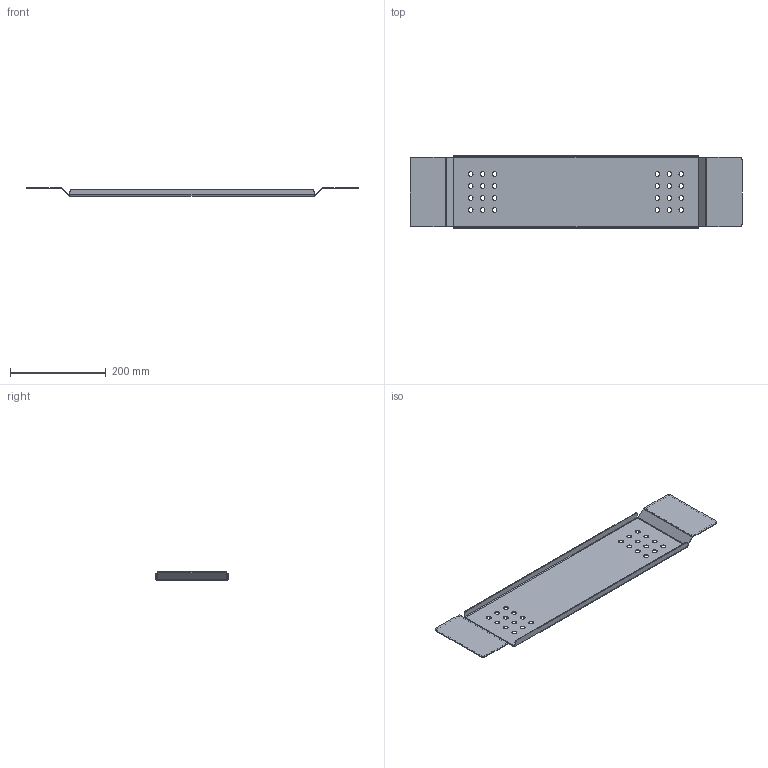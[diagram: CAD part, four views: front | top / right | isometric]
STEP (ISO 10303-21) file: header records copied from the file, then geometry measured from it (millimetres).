
FILE_DESCRIPTION (( 'STEP AP203' ), '1' );
FILE_NAME ('19-0022-00-01 aktualizacja 26.10.2021.STEP', '2021-10-26T08:08:06', ( '' ), ( '' ), 'SwSTEP 2.0', 'SolidWorks 2020', '' );
FILE_SCHEMA (( 'CONFIG_CONTROL_DESIGN' ));
Length unit declared in the file: millimetre
Products named in the file (3): taœma piankowa 138x68; 19-0022-00-01; 19-0022-00-01 aktualizacja 26.10.2021
Assembly tree (3 placements, depth 2):
  19-0022-00-01 aktualizacja 26.10.2021
    19-0022-00-01
    taœma piankowa 138x68  x2
Bounding box: 693.11 x 151 x 17.68 mm (x, y, z)
Volume: 193196.9 mm3; surface area: 274672.2 mm2
Topology: 3 solids, 3 shells, 130 faces, 324 edges, 200 vertices
Faces by surface type: cylinder 76, plane 54
Entity records: 4017 total; most frequent: DIRECTION 696, CARTESIAN_POINT 610, ORIENTED_EDGE 600, EDGE_CURVE 300, AXIS2_PLACEMENT_3D 270, VERTEX_POINT 184, EDGE_LOOP 168, LINE 156
